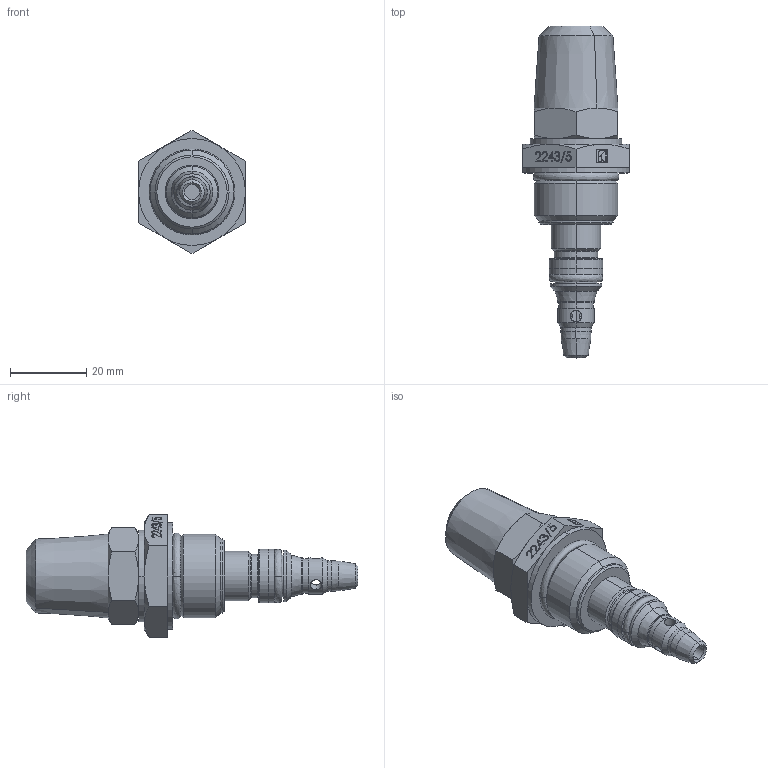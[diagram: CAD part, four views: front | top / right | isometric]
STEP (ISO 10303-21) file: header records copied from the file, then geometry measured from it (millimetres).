
FILE_DESCRIPTION (( 'STEP AP214' ), '1' );
FILE_NAME ('2243-5-12sf.STEP', '2014-03-13T21:31:37', ( '' ), ( '' ), 'SwSTEP 2.0', 'SolidWorks 2012', '' );
FILE_SCHEMA (( 'AUTOMOTIVE_DESIGN' ));
Length unit declared in the file: millimetre
Products named in the file (1): 2243-5-12sf
Bounding box: 28 x 86.98 x 32.33 mm (x, y, z)
Surface area: 7970.4 mm2 (no closed solid volume)
Topology: 0 solids, 9 shells, 210 faces, 613 edges, 399 vertices
Faces by surface type: plane 82, cone 45, cylinder 41, bspline 36, torus 6
Entity records: 12285 total; most frequent: CARTESIAN_POINT 4761, ORIENTED_EDGE 1046, DIRECTION 974, EDGE_CURVE 613, VERTEX_POINT 399, LINE 334, VECTOR 334, AXIS2_PLACEMENT_3D 320
